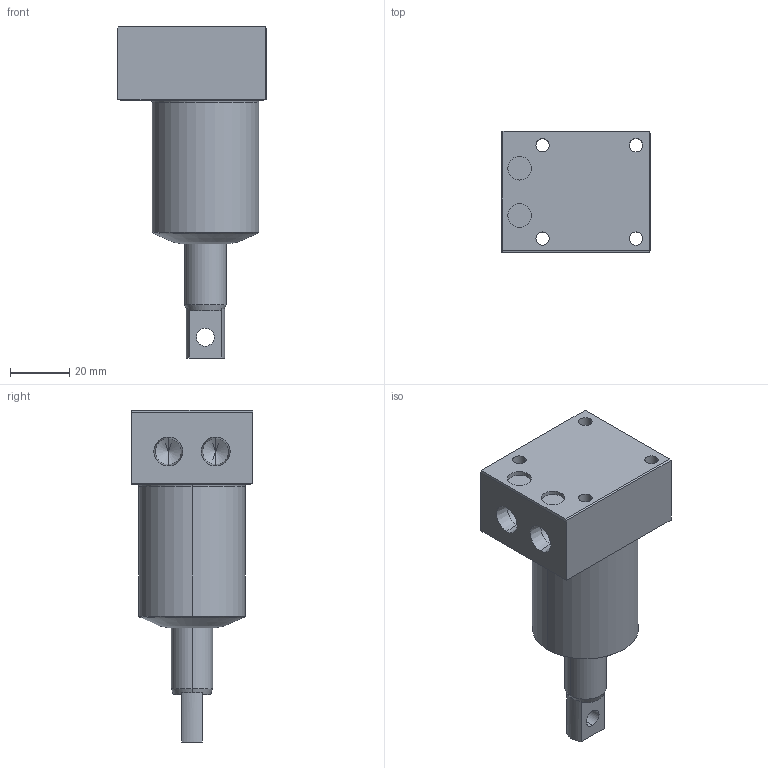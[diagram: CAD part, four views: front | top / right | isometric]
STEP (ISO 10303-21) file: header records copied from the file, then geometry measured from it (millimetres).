
FILE_DESCRIPTION (( 'STEP AP214' ), '1' );
FILE_NAME ('SB03-362-LP.STEP', '2021-08-22T04:16:08', ( '' ), ( '' ), 'SwSTEP 2.0', 'SolidWorks 2019', '' );
FILE_SCHEMA (( 'AUTOMOTIVE_DESIGN' ));
Length unit declared in the file: inch
Products named in the file (4): SB03-362-LP; SB03-361RP.STEP; 36-PTYPE-PISTON.STEP; 36-BM-BODY..STEP
Assembly tree (3 placements, depth 3):
  SB03-362-LP
    SB03-361RP.STEP
      36-BM-BODY..STEP
      36-PTYPE-PISTON.STEP
Bounding box: 50 x 41 x 112 mm (x, y, z)
Volume: 98282.8 mm3; surface area: 21427.3 mm2
Topology: 2 solids, 2 shells, 72 faces, 164 edges, 98 vertices
Faces by surface type: cylinder 27, plane 27, cone 18
Entity records: 2161 total; most frequent: DIRECTION 383, CARTESIAN_POINT 349, ORIENTED_EDGE 320, EDGE_CURVE 160, AXIS2_PLACEMENT_3D 148, VERTEX_POINT 98, EDGE_LOOP 88, VECTOR 87
